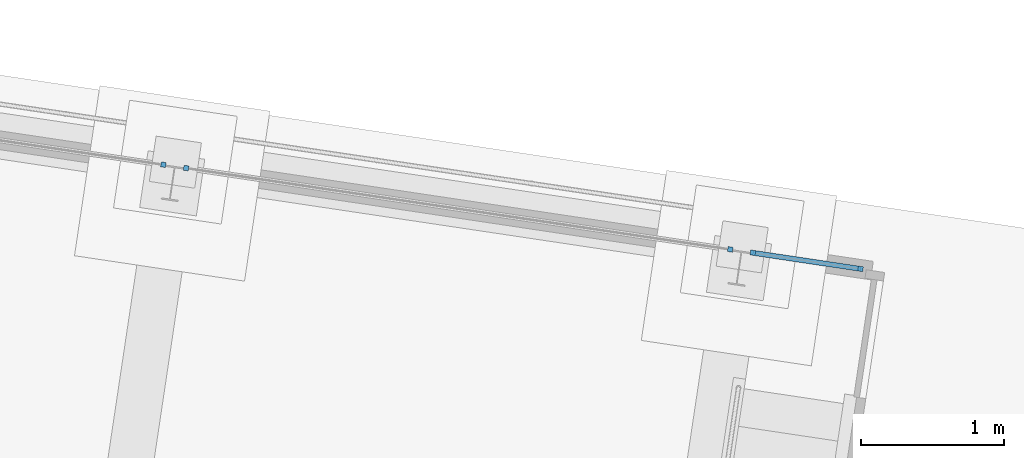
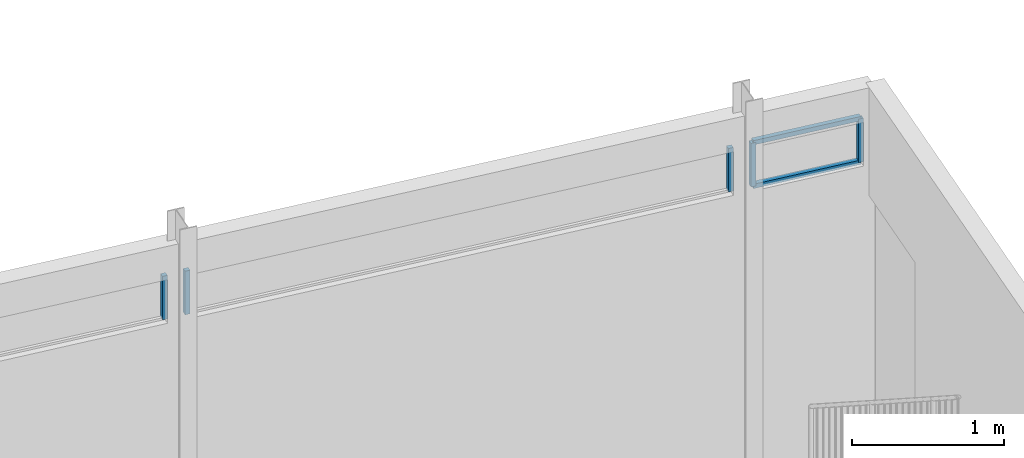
# One storey, part 126 of 142: 7 members.
"""IFC4 building model written with IfcOpenShell, lengths in metres."""

from ifc_helpers import new_model, si_unit, direction, frame, origin_with_axes, place, context, subcontext, project, spatial, rectangle, extrude, material, material_profile, profile_set, profile_usage, type_object, element, save


model = new_model("IFC4")

# Units and contexts
model_context = context("Model", 3, precision=1e-05, world=origin_with_axes(), true_north=direction((0.0, 1.0)))
body_context = subcontext(model_context, "Body", "Model", "MODEL_VIEW")
ifc_project = project(units=[si_unit("LENGTHUNIT", "METRE"), si_unit("AREAUNIT", "SQUARE_METRE"), si_unit("VOLUMEUNIT", "CUBIC_METRE")], contexts=[model_context])

# Site, building, storey
site_placement = place(None, origin_with_axes())
site = spatial("IfcSite", under=ifc_project, at=site_placement, Name="Lares · Rua das Mercês · artigo 4771")
building_placement = place(site_placement, frame((15.0, 9.7, 14.65), z_axis=(0.0, 0.0, 1.0), x_axis=(0.989015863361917, -0.147809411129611, 0.0)))
building = spatial("IfcBuilding", under=site, at=building_placement, Name="Casa Sobreposta")
storey_placement = place(building_placement, origin_with_axes())
storey = spatial("IfcBuildingStorey", under=building, at=storey_placement, Name="00 · Habitação e estacionamento", Elevation=14.65)

# Members
ifc_material = material(Name="Aço pintado / Stahl lackiert", Category="steel")
ifc_material_profile = material_profile(ifc_material, rectangle(XDim=0.035, YDim=0.035))
ifc_profile_set = profile_set([ifc_material_profile], Name="R0.035")
ifc_profile_usage_1 = profile_usage(ifc_profile_set)
member_type = type_object("IfcMemberType", Name="R0.035 / steel", PredefinedType="NOTDEFINED", material=ifc_profile_set)
member_1_placement = place(storey_placement, frame((19.92, 6.4, 2.35), z_axis=(0.0, 0.0, 1.0), x_axis=(1.0, 0.0, 0.0)))
element("IfcMember", 1, at=member_1_placement, inside=storey, type_object=member_type, material=ifc_profile_usage_1, Name="Rasgo norte 5 · montante", context=body_context, shape_type="SweptSolid", body=[
    extrude(rectangle(XDim=0.035, YDim=0.035), origin_with_axes(), (0.0, 0.0, 1.0), 0.35),
])
ifc_profile_usage_2 = profile_usage(ifc_profile_set)
member_2_placement = place(storey_placement, frame((20.08, 6.4, 2.35), z_axis=(0.0, 0.0, 1.0), x_axis=(1.0, 0.0, 0.0)))
element("IfcMember", 2, at=member_2_placement, inside=storey, type_object=member_type, material=ifc_profile_usage_2, Name="Rasgo norte 6 · montante", context=body_context, shape_type="SweptSolid", body=[
    extrude(rectangle(XDim=0.035, YDim=0.035), origin_with_axes(), (0.0, 0.0, 1.0), 0.35),
])
ifc_profile_usage_3 = profile_usage(ifc_profile_set)
member_3_placement = place(storey_placement, frame((23.92, 6.4, 2.35), z_axis=(0.0, 0.0, 1.0), x_axis=(1.0, 0.0, 0.0)))
element("IfcMember", 3, at=member_3_placement, inside=storey, type_object=member_type, material=ifc_profile_usage_3, Name="Rasgo norte 6 · montante", context=body_context, shape_type="SweptSolid", body=[
    extrude(rectangle(XDim=0.035, YDim=0.035), origin_with_axes(), (0.0, 0.0, 1.0), 0.35),
])
ifc_profile_usage_4 = profile_usage(ifc_profile_set)
member_4_placement = place(storey_placement, frame((24.08, 6.4, 2.35), z_axis=(0.0, 0.0, 1.0), x_axis=(1.0, 0.0, 0.0)))
element("IfcMember", 4, at=member_4_placement, inside=storey, type_object=member_type, material=ifc_profile_usage_4, Name="Rasgo norte 7 · montante", context=body_context, shape_type="SweptSolid", body=[
    extrude(rectangle(XDim=0.035, YDim=0.035), origin_with_axes(), (0.0, 0.0, 1.0), 0.35),
])
ifc_profile_usage_5 = profile_usage(ifc_profile_set)
member_5_placement = place(storey_placement, frame((24.84, 6.4, 2.35), z_axis=(0.0, 0.0, 1.0), x_axis=(1.0, 0.0, 0.0)))
element("IfcMember", 5, at=member_5_placement, inside=storey, type_object=member_type, material=ifc_profile_usage_5, Name="Rasgo norte 7 · montante", context=body_context, shape_type="SweptSolid", body=[
    extrude(rectangle(XDim=0.035, YDim=0.035), origin_with_axes(), (0.0, 0.0, 1.0), 0.35),
])
ifc_profile_usage_6 = profile_usage(ifc_profile_set)
member_6_placement = place(storey_placement, frame((24.08, 6.4, 2.35), z_axis=(1.0, 0.0, 0.0), x_axis=(0.0, -1.0, 0.0)))
element("IfcMember", 6, at=member_6_placement, inside=storey, type_object=member_type, material=ifc_profile_usage_6, Name="Rasgo norte 7 · travessa", context=body_context, shape_type="SweptSolid", body=[
    extrude(rectangle(XDim=0.035, YDim=0.035), origin_with_axes(), (0.0, 0.0, 1.0), 0.760000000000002),
])
ifc_profile_usage_7 = profile_usage(ifc_profile_set)
member_7_placement = place(storey_placement, frame((24.08, 6.4, 2.7), z_axis=(1.0, 0.0, 0.0), x_axis=(0.0, -1.0, 0.0)))
element("IfcMember", 7, at=member_7_placement, inside=storey, type_object=member_type, material=ifc_profile_usage_7, Name="Rasgo norte 7 · travessa", context=body_context, shape_type="SweptSolid", body=[
    extrude(rectangle(XDim=0.035, YDim=0.035), origin_with_axes(), (0.0, 0.0, 1.0), 0.760000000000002),
])

save(model, "model.ifc")
